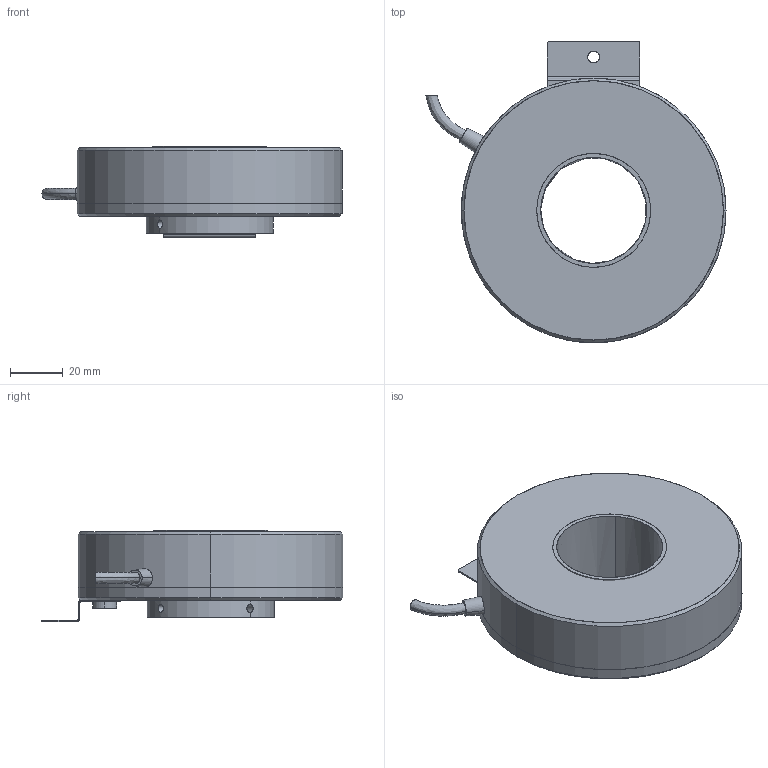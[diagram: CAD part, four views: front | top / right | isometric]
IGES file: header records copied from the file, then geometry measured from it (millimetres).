
Start section: SolidWorks IGES file using analytic representation for surfaces
Bounding box: 113.36 x 114 x 34.5 mm (x, y, z)
Surface area: 51330.3 mm2 (no closed solid volume)
Topology: 0 solids, 0 shells, 145 faces, 3028 edges, 3028 vertices
Faces by surface type: revolution 86, bspline 59
